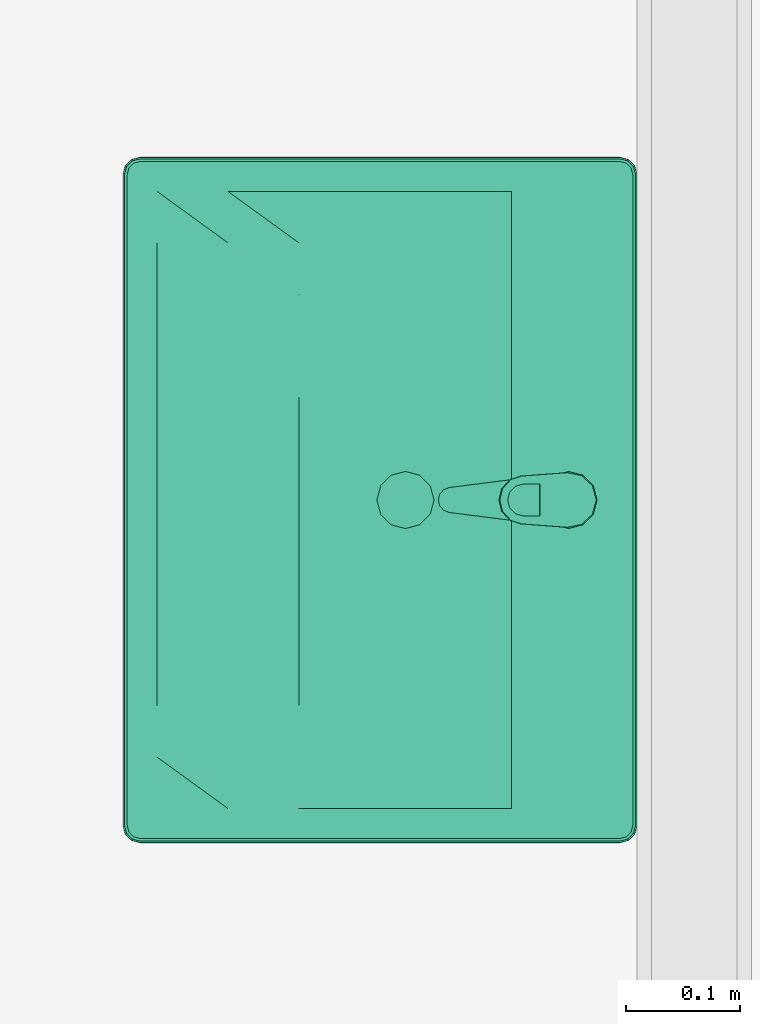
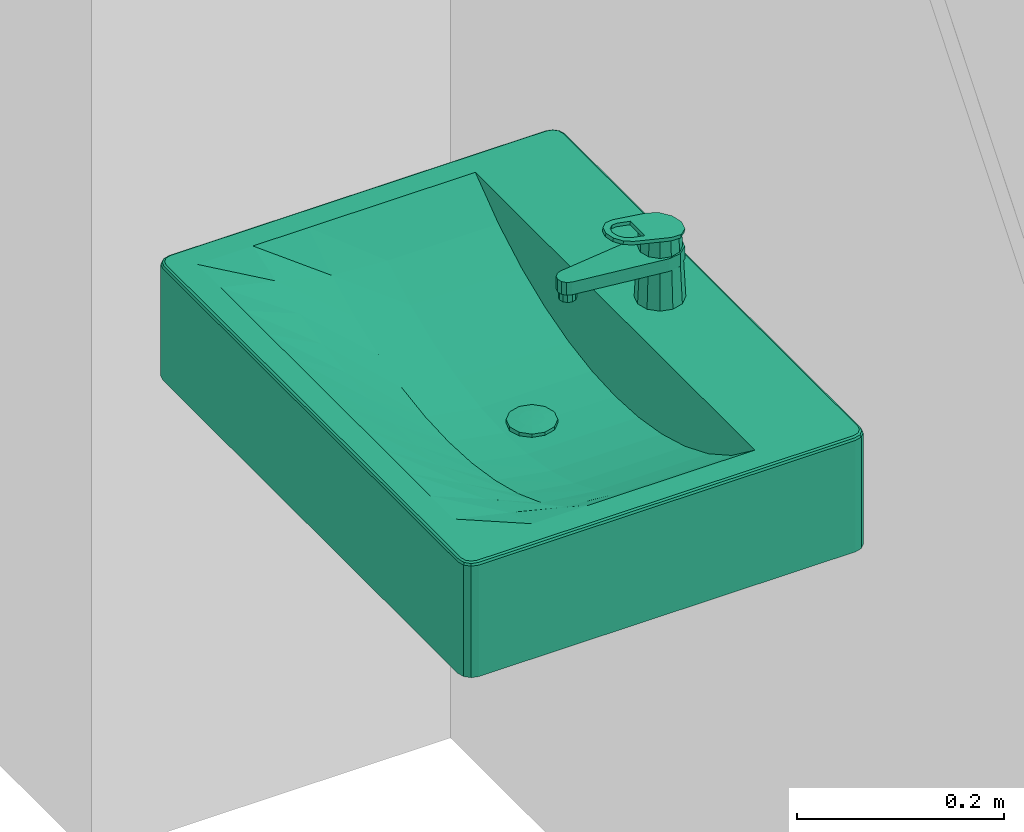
# One storey, part 82 of 99: 1 flow controller.
"""IFC2X3 building model written with IfcOpenShell, lengths in millimetres."""

from ifc_helpers import new_model, entity, si_unit, converted_unit, derived_unit, money_unit, direction, frame, origin_with_axes, place, context, subcontext, project, spatial, open_shell, faceted_brep, surface_model, source, transform, mapped, type_object, type_shapes, element, save


model = new_model("IFC2X3")

# Units and contexts
model_context = context("Model", 3, precision=0.01, world=origin_with_axes(), true_north=direction((0.0, 1.0)))
body_context = subcontext(model_context, "Body", "Model", "MODEL_VIEW")
ifc_project = project(units=[si_unit("LENGTHUNIT", "METRE", prefix="MILLI"), si_unit("AREAUNIT", "SQUARE_METRE"), si_unit("VOLUMEUNIT", "CUBIC_METRE"), converted_unit("PLANEANGLEUNIT", "DEGREE", entity("IfcPlaneAngleMeasure", 0.0174532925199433), si_unit("PLANEANGLEUNIT", "RADIAN"), dimensions=[0, 0, 0, 0, 0, 0, 0]), money_unit("EUR"), converted_unit("TIMEUNIT", "Year", entity("IfcTimeMeasure", 31557600.0), si_unit("TIMEUNIT", "SECOND"), dimensions=[0, 0, 1, 0, 0, 0, 0]), si_unit("MASSUNIT", "GRAM", prefix="KILO"), si_unit("THERMODYNAMICTEMPERATUREUNIT", "DEGREE_CELSIUS"), si_unit("LUMINOUSINTENSITYUNIT", "LUMEN"), si_unit("ENERGYUNIT", "JOULE", prefix="MEGA"), derived_unit("THERMALCONDUCTANCEUNIT", [(si_unit("POWERUNIT", "WATT"), 1), (si_unit("LENGTHUNIT", "METRE"), -1), (si_unit("THERMODYNAMICTEMPERATUREUNIT", "KELVIN"), -1)]), derived_unit("SPECIFICHEATCAPACITYUNIT", [(si_unit("ENERGYUNIT", "JOULE"), 1), (si_unit("MASSUNIT", "GRAM", prefix="KILO"), -1), (si_unit("THERMODYNAMICTEMPERATUREUNIT", "KELVIN"), -1)]), derived_unit("MASSDENSITYUNIT", [(si_unit("MASSUNIT", "GRAM", prefix="KILO"), 1), (si_unit("VOLUMEUNIT", "CUBIC_METRE"), -1)])], contexts=[model_context])

# Site, building, storey
site_placement = place(None, origin_with_axes())
site = spatial("IfcSite", under=ifc_project, at=site_placement, Name="Site", CompositionType="ELEMENT")
building_placement = place(site_placement, origin_with_axes())
building = spatial("IfcBuilding", under=site, at=building_placement, Name="Naam gebouw", CompositionType="ELEMENT")
storey_placement = place(building_placement, frame((0.0, 0.0, 7650.0), z_axis=(0.0, 0.0, 1.0), x_axis=(1.0, 0.0, 0.0)))
storey = spatial("IfcBuildingStorey", under=building, at=storey_placement, Name="2e verdieping N", CompositionType="ELEMENT", Elevation=7650.0)

# Flow controller
valve_type = type_object("IfcValveType", Name="Wasbak 27", PredefinedType="NOTDEFINED")
shared_shape = source(origin_with_axes(), body_context, "Body", "SurfaceModel", [
    faceted_brep([(285.0, -450.0, 865.0), (-285.0, -450.0, 865.0), (-292.5, -447.9903810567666, 865.0), (-297.9903810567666, -442.5, 865.0), (-300.0, -435.0, 865.0), (-300.0, -15.00000000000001, 865.0), (-297.9903810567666, -7.500000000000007, 865.0), (-292.5, -2.009618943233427, 865.0), (-285.0, 0.0, 865.0), (285.0, 0.0, 865.0), (292.5, -2.009618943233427, 865.0), (297.9903810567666, -7.500000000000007, 865.0), (300.0, -15.00000000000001, 865.0), (300.0, -435.0, 865.0), (297.9903810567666, -442.5, 865.0), (292.5, -447.9903810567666, 865.0), (-270.0, -420.0000000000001, 865.0), (270.0, -420.0000000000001, 865.0), (270.0, -110.0, 865.0), (-270.0, -110.0, 865.0), (284.9999995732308, -450.0000003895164, 995.0), (-284.9999997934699, -450.0000003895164, 995.0), (-292.5000000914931, -447.9903813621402, 995.0), (-297.9903813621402, -442.5000000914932, 995.0), (-300.0000003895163, -434.99999979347, 995.0), (-300.0000003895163, -14.99999986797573, 995.0), (-297.9903813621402, -7.499999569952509, 995.0), (-292.5000000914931, -2.009619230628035, 995.0), (-284.9999997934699, -2.032518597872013e-07, 995.0), (284.9999995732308, -2.032518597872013e-07, 995.0), (292.499999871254, -2.009619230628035, 995.0), (297.990381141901, -7.499999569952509, 995.0), (300.0000001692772, -14.99999986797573, 995.0), (300.0000001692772, -434.99999979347, 995.0), (297.990381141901, -442.5000000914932, 995.0), (292.499999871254, -447.9903813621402, 995.0), (-270.0, -420.0000000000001, 999.9999996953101), (270.0, -420.0000000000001, 999.9999996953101), (270.0, -110.0, 999.9999996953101), (-270.0, -110.0, 999.9999996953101), (284.9775698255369, -449.8296295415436, 996.2940952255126), (-284.9775700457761, -449.8296295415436, 996.2940952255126), (-292.4118096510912, -447.8376310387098, 996.2940952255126), (-297.8376310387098, -442.4118096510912, 996.2940952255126), (-299.8296295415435, -434.9775700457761, 996.2940952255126), (-299.8296295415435, -15.02242961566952, 996.2940952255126), (-297.8376310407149, -7.588190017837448, 996.2940952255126), (-292.4118096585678, -2.16236955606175, 996.2940952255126), (-284.9775700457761, -0.1703710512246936, 996.2940952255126), (284.9775698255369, -0.1703710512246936, 996.2940952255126), (292.4118094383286, -2.16236955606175, 996.2940952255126), (297.8376308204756, -7.588190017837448, 996.2940952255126), (299.8296293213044, -15.02242961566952, 996.2940952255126), (299.8296293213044, -434.9775700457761, 996.2940952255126), (297.8376308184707, -442.4118096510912, 996.2940952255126), (292.411809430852, -447.8376310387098, 996.2940952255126), (-284.3417376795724, -4.999997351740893, 999.9999996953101), (-289.911811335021, -6.492494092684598, 999.9999996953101), (-293.5075066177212, -10.08818876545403, 999.9999996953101), (-295.0000032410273, -15.6582619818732, 999.9999996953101), (-295.0000032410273, -434.3417376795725, 999.9999996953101), (-293.5075065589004, -439.9118111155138, 999.9999996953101), (-289.9118111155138, -443.5075065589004, 999.9999996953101), (-284.3417376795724, -445.0000032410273, 999.9999996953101), (284.3417374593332, -445.0000032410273, 999.9999996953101), (289.9118108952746, -443.5075065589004, 999.9999996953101), (293.5075063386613, -439.9118111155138, 999.9999996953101), (295.0000030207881, -434.3417376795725, 999.9999996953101), (295.0000030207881, -15.6582619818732, 999.9999996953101), (293.507506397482, -10.08818876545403, 999.9999996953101), (289.9118111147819, -6.492494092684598, 999.9999996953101), (284.3417374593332, -4.999997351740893, 999.9999996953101), (284.8071989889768, -448.5355345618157, 998.5355339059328), (-284.8071992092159, -448.5355345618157, 998.5355339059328), (-291.7419367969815, -446.6773772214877, 998.5355339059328), (-296.6773772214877, -441.7419367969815, 998.5355339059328), (-298.5355345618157, -434.807199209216, 998.5355339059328), (-298.5355345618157, -15.1928004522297, 998.5355339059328), (-296.6773772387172, -8.258062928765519, 998.5355339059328), (-291.7419368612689, -3.322623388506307, 998.5355339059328), (-284.8071992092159, -1.464466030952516, 998.5355339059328), (284.8071989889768, -1.464466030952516, 998.5355339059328), (291.7419366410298, -3.322623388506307, 998.5355339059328), (296.677377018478, -8.258062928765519, 998.5355339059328), (298.5355343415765, -15.1928004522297, 998.5355339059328), (298.5355343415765, -434.807199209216, 998.5355339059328), (296.6773770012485, -441.7419367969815, 998.5355339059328), (291.7419365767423, -446.6773772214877, 998.5355339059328), (-290.5816830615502, -5.332242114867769, 999.8296291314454), (-284.5121082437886, -3.705904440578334, 999.8296291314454), (-294.6677585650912, -9.418316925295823, 999.8296291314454), (-296.2940961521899, -15.487891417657, 999.8296291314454), (-296.2940961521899, -434.5121082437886, 999.8296291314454), (-294.6677585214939, -440.5816828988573, 999.8296291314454), (-290.5816828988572, -444.6677585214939, 999.8296291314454), (-284.5121082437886, -446.2940961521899, 999.8296291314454), (284.5121080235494, -446.2940961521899, 999.8296291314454), (290.5816826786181, -444.6677585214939, 999.8296291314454), (294.6677583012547, -440.5816828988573, 999.8296291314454), (296.2940959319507, -434.5121082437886, 999.8296291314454), (296.2940959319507, -15.487891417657, 999.8296291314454), (294.667758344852, -9.418316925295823, 999.8296291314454), (290.581682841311, -5.332242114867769, 999.8296291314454), (284.5121080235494, -3.705904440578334, 999.8296291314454)], [[[0, 1, 2, 3, 4, 5, 6, 7, 8, 9, 10, 11, 12, 13, 14, 15], [16, 17, 18, 19]], [[0, 20, 21, 1]], [[1, 21, 22, 2]], [[2, 22, 23, 3]], [[3, 23, 24, 4]], [[4, 24, 25, 5]], [[5, 25, 26, 6]], [[6, 26, 27, 7]], [[7, 27, 28, 8]], [[8, 28, 29, 9]], [[9, 29, 30, 10]], [[10, 30, 31, 11]], [[11, 31, 32, 12]], [[12, 32, 33, 13]], [[13, 33, 34, 14]], [[14, 34, 35, 15]], [[15, 35, 20, 0]], [[36, 37, 17, 16]], [[37, 38, 18, 17]], [[38, 39, 19, 18]], [[39, 36, 16, 19]], [[20, 40, 41, 21]], [[21, 41, 42, 22]], [[22, 42, 43, 23]], [[23, 43, 44, 24]], [[24, 44, 45, 25]], [[25, 45, 46, 26]], [[26, 46, 47, 27]], [[27, 47, 48, 28]], [[28, 48, 49, 29]], [[29, 49, 50, 30]], [[30, 50, 51, 31]], [[31, 51, 52, 32]], [[32, 52, 53, 33]], [[33, 53, 54, 34]], [[34, 54, 55, 35]], [[35, 55, 40, 20]], [[56, 57, 58, 59, 60, 61, 62, 63, 64, 65, 66, 67, 68, 69, 70, 71], [36, 39, 38, 37]], [[40, 72, 73, 41]], [[41, 73, 74, 42]], [[42, 74, 75, 43]], [[43, 75, 76, 44]], [[44, 76, 77, 45]], [[45, 77, 78, 46]], [[46, 78, 79, 47]], [[47, 79, 80, 48]], [[48, 80, 81, 49]], [[49, 81, 82, 50]], [[50, 82, 83, 51]], [[51, 83, 84, 52]], [[52, 84, 85, 53]], [[53, 85, 86, 54]], [[54, 86, 87, 55]], [[55, 87, 72, 40]], [[88, 57, 56, 89]], [[90, 58, 57, 88]], [[91, 59, 58, 90]], [[92, 60, 59, 91]], [[93, 61, 60, 92]], [[94, 62, 61, 93]], [[95, 63, 62, 94]], [[96, 64, 63, 95]], [[97, 65, 64, 96]], [[98, 66, 65, 97]], [[99, 67, 66, 98]], [[100, 68, 67, 99]], [[101, 69, 68, 100]], [[102, 70, 69, 101]], [[103, 71, 70, 102]], [[89, 56, 71, 103]], [[72, 96, 95, 73]], [[73, 95, 94, 74]], [[74, 94, 93, 75]], [[75, 93, 92, 76]], [[76, 92, 91, 77]], [[77, 91, 90, 78]], [[78, 90, 88, 79]], [[79, 88, 89, 80]], [[80, 89, 103, 81]], [[81, 103, 102, 82]], [[82, 102, 101, 83]], [[83, 101, 100, 84]], [[84, 100, 99, 85]], [[85, 99, 98, 86]], [[86, 98, 97, 87]], [[87, 97, 96, 72]]]),
    faceted_brep([(-270.0, -420.0000000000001, 865.0), (-270.0, -110.0, 865.0), (270.0, -110.0, 865.0), (270.0, -420.0000000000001, 865.0), (12.49999999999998, -224.368635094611, 865.0), (21.65063509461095, -215.218, 865.0), (25.0, -202.718, 865.0), (21.65063509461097, -190.218, 865.0), (12.50000000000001, -181.067364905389, 865.0), (0.0, -177.718, 865.0), (-12.49999999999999, -181.067364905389, 865.0), (-21.65063509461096, -190.218, 865.0), (-25.0, -202.718, 865.0), (-21.65063509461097, -215.218, 865.0), (-12.50000000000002, -224.368635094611, 865.0), (0.0, -227.718, 865.0), (-270.0, -296.0000000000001, 1000.0), (-270.0, -234.0, 1000.0), (-270.0, -172.0, 1000.0), (-270.0, -110.0, 1000.0), (-270.0, -420.0000000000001, 1000.0), (-270.0, -358.0000000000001, 1000.0), (135.0, -110.0, 922.6004593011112), (180.0000000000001, -110.0, 941.1231796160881), (225.0, -110.0, 966.3832810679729), (270.0, -110.0, 1000.0), (-225.0, -110.0, 966.3832810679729), (-180.0, -110.0, 941.1231796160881), (-135.0, -110.0, 922.6004593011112), (-90.0, -110.0, 909.8887668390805), (-44.99999999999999, -110.0, 902.449942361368), (0.0, -110.0, 900.0), (45.00000000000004, -110.0, 902.449942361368), (90.00000000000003, -110.0, 909.8887668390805), (270.0, -234.0, 1000.0), (270.0, -296.0000000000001, 999.9999999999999), (270.0, -358.0000000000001, 1000.0), (270.0, -420.0000000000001, 1000.0), (270.0, -172.0, 1000.0), (-135.0, -420.0000000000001, 1000.0), (-180.0, -420.0000000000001, 1000.0), (-225.0, -420.0000000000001, 1000.0), (225.0, -420.0000000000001, 1000.0), (180.0000000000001, -420.0000000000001, 1000.0), (135.0, -420.0000000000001, 1000.0), (90.00000000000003, -420.0000000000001, 1000.0), (45.00000000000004, -420.0000000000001, 1000.0), (0.0, -420.0000000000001, 1000.0), (-44.99999999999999, -420.0000000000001, 1000.0), (-90.0, -420.0000000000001, 1000.0), (12.49999999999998, -224.368635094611, 900.6805395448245), (21.65063509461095, -215.218, 901.1787290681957), (25.0, -202.718, 901.3610790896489), (21.65063509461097, -190.218, 901.1787290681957), (12.50000000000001, -181.067364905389, 900.6805395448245), (0.0, -177.718, 900.0), (-12.49999999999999, -181.067364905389, 900.6805395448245), (-21.65063509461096, -190.218, 901.1787290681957), (-25.0, -202.718, 901.3610790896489), (-21.65063509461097, -215.218, 901.1787290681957), (-12.50000000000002, -224.368635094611, 900.6805395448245), (0.0, -227.718, 900.0), (-225.0, -234.0, 966.3832810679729), (-225.0, -172.0, 966.3832810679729), (-225.0, -358.0000000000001, 985.9168845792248), (-225.0, -296.0000000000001, 970.8433791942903), (180.0000000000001, -172.0, 941.1231796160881), (135.0, -172.0, 922.6004593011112), (225.0, -172.0, 966.3832810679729), (-180.0, -172.0, 941.1231796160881), (-135.0, -172.0, 922.6004593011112), (-90.0, -172.0, 909.8887668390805), (-44.99999999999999, -172.0, 902.449942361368), (0.0, -172.0, 900.0), (45.00000000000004, -172.0, 902.449942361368), (90.00000000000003, -172.0, 909.8887668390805), (225.0, -296.0000000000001, 970.8433791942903), (225.0, -358.0000000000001, 985.9168845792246), (225.0, -234.0, 966.3832810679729), (-135.0, -358.0000000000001, 965.8650987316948), (-180.0, -358.0000000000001, 974.5766150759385), (180.0000000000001, -358.0000000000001, 974.5766150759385), (135.0, -358.0000000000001, 965.8650987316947), (90.00000000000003, -358.0000000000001, 959.6989661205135), (45.00000000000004, -358.0000000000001, 956.0213334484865), (0.0, -358.0000000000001, 954.7990813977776), (-44.99999999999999, -358.0000000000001, 956.0213334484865), (-90.0, -358.0000000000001, 959.6989661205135), (0.0, -234.0, 900.0), (45.00000000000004, -234.0, 902.449942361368), (-44.99999999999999, -234.0, 902.449942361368), (-180.0, -234.0, 941.1231796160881), (180.0000000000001, -234.0, 941.1231796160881), (135.0, -234.0, 922.6004593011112), (-135.0, -234.0, 922.6004593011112), (-90.0, -234.0, 909.8887668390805), (90.00000000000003, -234.0, 909.8887668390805), (0.0, -296.0000000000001, 911.4604006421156), (-44.99999999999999, -296.0000000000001, 913.6864730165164), (-180.0, -296.0000000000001, 948.4946543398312), (135.0, -296.0000000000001, 931.904485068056), (180.0000000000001, -296.0000000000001, 948.4946543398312), (-135.0, -296.0000000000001, 931.904485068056), (-90.0, -296.0000000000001, 920.4312036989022), (45.00000000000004, -296.0000000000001, 913.6864730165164), (90.00000000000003, -296.0000000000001, 920.4312036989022)], [[[0, 1, 2, 3], [4, 5, 6, 7, 8, 9, 10, 11, 12, 13, 14, 15]], [[16, 17, 18, 19, 1, 0, 20, 21]], [[22, 23, 24, 25, 2, 1, 19, 26, 27, 28, 29, 30, 31, 32, 33]], [[34, 35, 36, 37, 3, 2, 25, 38]], [[39, 40, 41, 20, 0, 3, 37, 42, 43, 44, 45, 46, 47, 48, 49]], [[50, 51, 5, 4]], [[51, 52, 6, 5]], [[52, 53, 7, 6]], [[53, 54, 8, 7]], [[54, 55, 9, 8]], [[55, 56, 10, 9]], [[56, 57, 11, 10]], [[57, 58, 12, 11]], [[58, 59, 13, 12]], [[59, 60, 14, 13]], [[60, 61, 15, 14]], [[61, 50, 4, 15]], [[16, 62, 17]], [[62, 63, 18, 17]], [[63, 26, 19, 18]], [[20, 64, 21]], [[21, 65, 16]], [[66, 23, 22, 67]], [[68, 24, 23, 66]], [[38, 25, 24, 68]], [[69, 27, 26, 63]], [[70, 28, 27, 69]], [[71, 29, 28, 70]], [[72, 30, 29, 71]], [[73, 31, 30, 72]], [[74, 32, 31, 73]], [[75, 33, 32, 74]], [[67, 22, 33, 75]], [[76, 35, 34]], [[77, 36, 35]], [[42, 37, 36]], [[34, 38, 68, 78]], [[40, 39, 79]], [[41, 40, 80]], [[20, 41, 64]], [[43, 42, 77]], [[44, 43, 81]], [[45, 44, 82]], [[46, 45, 83]], [[47, 46, 84]], [[48, 47, 85]], [[49, 48, 86]], [[39, 49, 87]], [[54, 53, 52, 51, 50, 61, 88, 89, 74, 73, 55]], [[56, 55, 73, 72, 90, 88, 61, 60, 59, 58, 57]], [[16, 65, 62]], [[91, 69, 63, 62]], [[21, 64, 65]], [[92, 66, 67, 93]], [[78, 68, 66, 92]], [[94, 70, 69, 91]], [[95, 71, 70, 94]], [[90, 72, 71, 95]], [[96, 75, 74, 89]], [[93, 67, 75, 96]], [[77, 35, 76]], [[76, 34, 78]], [[42, 36, 77]], [[39, 87, 79]], [[40, 79, 80]], [[41, 80, 64]], [[43, 77, 81]], [[44, 81, 82]], [[45, 82, 83]], [[46, 83, 84]], [[47, 84, 85]], [[48, 85, 86]], [[49, 86, 87]], [[97, 89, 88]], [[98, 88, 90]], [[65, 91, 62]], [[64, 99, 65]], [[100, 92, 93]], [[101, 78, 92]], [[99, 94, 91]], [[102, 95, 94]], [[103, 90, 95]], [[104, 96, 89]], [[105, 93, 96]], [[81, 77, 76]], [[101, 76, 78]], [[79, 87, 103]], [[80, 79, 102]], [[64, 80, 99]], [[82, 81, 101]], [[83, 82, 100]], [[84, 83, 105]], [[85, 84, 104]], [[86, 85, 97]], [[87, 86, 98]], [[97, 104, 89]], [[98, 97, 88]], [[103, 98, 90]], [[65, 99, 91]], [[100, 101, 92]], [[105, 100, 93]], [[99, 102, 94]], [[102, 103, 95]], [[104, 105, 96]], [[81, 76, 101]], [[87, 98, 103]], [[79, 103, 102]], [[80, 102, 99]], [[82, 101, 100]], [[83, 100, 105]], [[84, 105, 104]], [[85, 104, 97]], [[86, 97, 98]]]),
    faceted_brep([(21.65063509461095, -215.218, 900.0), (12.49999999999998, -224.368635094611, 900.0), (0.0, -227.718, 900.0), (-12.50000000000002, -224.368635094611, 900.0), (-21.65063509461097, -215.218, 900.0), (-25.0, -202.718, 900.0), (-21.65063509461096, -190.218, 900.0), (-12.49999999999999, -181.067364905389, 900.0), (0.0, -177.718, 900.0), (12.50000000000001, -181.067364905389, 900.0), (21.65063509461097, -190.218, 900.0), (25.0, -202.718, 900.0), (21.65063509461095, -215.218, 905.0), (12.49999999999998, -224.368635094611, 905.0), (0.0, -227.718, 905.0), (-12.50000000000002, -224.368635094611, 905.0), (-21.65063509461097, -215.218, 905.0), (-25.0, -202.718, 905.0), (-21.65063509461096, -190.218, 905.0), (-12.49999999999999, -181.067364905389, 905.0), (0.0, -177.718, 905.0), (12.50000000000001, -181.067364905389, 905.0), (21.65063509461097, -190.218, 905.0), (25.0, -202.718, 905.0)], [[[0, 1, 2, 3, 4, 5, 6, 7, 8, 9, 10, 11]], [[1, 0, 12, 13]], [[2, 1, 13, 14]], [[3, 2, 14, 15]], [[4, 3, 15, 16]], [[5, 4, 16, 17]], [[6, 5, 17, 18]], [[7, 6, 18, 19]], [[8, 7, 19, 20]], [[9, 8, 20, 21]], [[10, 9, 21, 22]], [[11, 10, 22, 23]], [[0, 11, 23, 12]], [[12, 23, 22, 21, 20, 19, 18, 17, 16, 15, 14, 13]]]),
    surface_model("IfcShellBasedSurfaceModel", [(0.0, -202.718, 907.0), (0.0, -190.09609443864, 906.4975737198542), (-6.310952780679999, -191.7871091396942, 906.4975737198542), (6.310952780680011, -191.7871091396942, 906.4975737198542), (0.0, -177.718, 905.0), (-12.5, -181.067364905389, 905.0), (-10.93089086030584, -196.40704721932, 906.4975737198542), (10.93089086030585, -196.40704721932, 906.4975737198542), (12.50000000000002, -181.067364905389, 905.0), (-21.65063509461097, -190.218, 905.0), (-12.62190556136, -202.718, 906.4975737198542), (12.62190556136, -202.718, 906.4975737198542), (21.65063509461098, -190.218, 905.0), (-25.0, -202.718, 905.0), (-10.93089086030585, -209.02895278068, 906.4975737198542), (10.93089086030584, -209.02895278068, 906.4975737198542), (25.0, -202.718, 905.0), (-21.65063509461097, -215.218, 905.0), (-6.310952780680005, -213.6488908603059, 906.4975737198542), (6.310952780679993, -213.6488908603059, 906.4975737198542), (21.65063509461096, -215.218, 905.0), (-12.50000000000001, -224.368635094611, 905.0), (0.0, -215.33990556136, 906.4975737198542), (12.49999999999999, -224.368635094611, 905.0), (0.0, -227.718, 905.0)], [open_shell([[[0, 1, 2]], [[0, 3, 1]], [[2, 1, 4, 5]], [[0, 2, 6]], [[0, 7, 3]], [[1, 3, 8, 4]], [[6, 2, 5, 9]], [[0, 6, 10]], [[0, 11, 7]], [[3, 7, 12, 8]], [[10, 6, 9, 13]], [[0, 10, 14]], [[0, 15, 11]], [[7, 11, 16, 12]], [[14, 10, 13, 17]], [[0, 14, 18]], [[0, 19, 15]], [[11, 15, 20, 16]], [[18, 14, 17, 21]], [[0, 18, 22]], [[0, 22, 19]], [[15, 19, 23, 20]], [[22, 18, 21, 24]], [[19, 22, 24, 23]]])]),
    faceted_brep([(12.50000000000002, -38.34936490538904, 1000.0), (0.0, -34.99999999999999, 1000.0), (0.0, -38.79807692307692, 1075.961538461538), (10.587322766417, -41.66221905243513, 1076.507089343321), (21.65063509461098, -47.50000000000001, 1000.0), (25.0, -60.00000000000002, 1000.0), (21.65063509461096, -72.50000000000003, 1000.0), (12.49999999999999, -81.65063509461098, 1000.0), (0.0, -84.99999999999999, 1000.0), (-12.50000000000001, -81.65063509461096, 1000.0), (-21.65063509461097, -72.5, 1000.0), (-25.0, -59.99999999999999, 1000.0), (-21.65063509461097, -47.49999999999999, 1000.0), (-12.5, -38.34936490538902, 1000.0), (-10.58732276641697, -41.66221905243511, 1076.507089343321), (-18.27355038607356, -49.44976076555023, 1077.99043062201), (-21.0, -59.99999999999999, 1080.0), (-18.10034137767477, -70.45023696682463, 1081.990521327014), (-10.41410590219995, -78.0377605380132, 1083.435763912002), (0.0, -80.80188679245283, 1083.962264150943), (10.41410590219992, -78.03776053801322, 1083.435763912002), (18.10034137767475, -70.45023696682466, 1081.990521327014), (21.0, -60.00000000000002, 1080.0), (18.27355038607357, -49.44976076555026, 1077.99043062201)], [[[0, 1, 2, 3]], [[0, 4, 5, 6, 7, 8, 9, 10, 11, 12, 13, 1]], [[1, 13, 14, 2]], [[3, 2, 14, 15, 16, 17, 18, 19, 20, 21, 22, 23]], [[4, 0, 3, 23]], [[5, 4, 23, 22]], [[6, 5, 22, 21]], [[7, 6, 21, 20]], [[8, 7, 20, 19]], [[9, 8, 19, 18]], [[10, 9, 18, 17]], [[11, 10, 17, 16]], [[12, 11, 16, 15]], [[13, 12, 15, 14]]]),
    faceted_brep([(9.000000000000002, -163.0, 1035.0), (7.794228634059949, -158.5, 1035.0), (7.794228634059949, -158.5, 1045.0), (9.000000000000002, -163.0, 1045.0), (7.794228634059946, -167.5, 1035.0), (4.499999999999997, -170.79422863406, 1035.0), (0.0, -172.0, 1035.0), (-4.500000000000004, -170.79422863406, 1035.0), (-7.794228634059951, -167.5, 1035.0), (-9.000000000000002, -163.0, 1035.0), (-7.794228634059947, -158.5, 1035.0), (-4.499999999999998, -155.2057713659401, 1035.0), (0.0, -154.0, 1035.0), (4.500000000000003, -155.2057713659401, 1035.0), (4.500000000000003, -155.2057713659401, 1045.0), (0.0, -154.0, 1045.0), (-4.499999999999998, -155.2057713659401, 1045.0), (-7.794228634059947, -158.5, 1045.0), (-9.000000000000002, -163.0, 1045.0), (-7.794228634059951, -167.5, 1045.0), (-4.500000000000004, -170.79422863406, 1045.0), (0.0, -172.0, 1045.0), (4.499999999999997, -170.79422863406, 1045.0), (7.794228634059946, -167.5, 1045.0)], [[[0, 1, 2, 3]], [[0, 4, 5, 6, 7, 8, 9, 10, 11, 12, 13, 1]], [[1, 13, 14, 2]], [[3, 2, 14, 15, 16, 17, 18, 19, 20, 21, 22, 23]], [[4, 0, 3, 23]], [[5, 4, 23, 22]], [[6, 5, 22, 21]], [[7, 6, 21, 20]], [[8, 7, 20, 19]], [[9, 8, 19, 18]], [[10, 9, 18, 17]], [[11, 10, 17, 16]], [[12, 11, 16, 15]], [[13, 12, 15, 14]]]),
    faceted_brep([(-12.87171762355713, -39.74369617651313, 1060.0), (-21.72780530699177, -49.80679463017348, 1060.0), (-23.8054, -63.04989999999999, 1060.0), (-10.9119908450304, -164.3883719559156, 1060.0), (-9.02887546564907, -169.2831941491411, 1060.0), (-5.093324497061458, -172.7497264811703, 1060.0), (3.626798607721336e-05, -173.9999600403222, 1060.0), (5.093388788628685, -172.7496928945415, 1060.0), (9.02891689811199, -169.2831346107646, 1060.0), (10.912, -164.3883, 1060.0), (23.80539974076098, -63.04990202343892, 1060.0), (21.72780617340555, -49.80679647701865, 1060.0), (12.87171934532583, -39.74369727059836, 1060.0), (1.019988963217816e-06, -36.00002168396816, 1060.0), (11.00000000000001, -40.94744111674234, 1060.0), (19.05255888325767, -48.99999999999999, 1060.0), (22.00000000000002, -60.0, 1060.0), (19.05255888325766, -71.00000000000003, 1060.0), (10.99999999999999, -79.05255888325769, 1060.0), (0.0, -82.0, 1060.0), (-11.00000000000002, -79.05255888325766, 1060.0), (-19.05255888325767, -70.99999999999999, 1060.0), (-22.00000000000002, -59.99999999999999, 1060.0), (-19.05255888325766, -48.99999999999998, 1060.0), (-11.0, -40.94744111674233, 1060.0), (0.0, -37.99999999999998, 1060.0), (-21.72780530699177, -49.80679463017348, 1045.0), (-12.87171762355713, -39.74369617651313, 1045.0), (-23.8054, -63.04989999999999, 1045.0), (-10.9119908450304, -164.3883719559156, 1045.0), (-9.02887546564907, -169.2831941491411, 1045.0), (-5.093324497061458, -172.7497264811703, 1045.0), (3.626798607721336e-05, -173.9999600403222, 1045.0), (5.093388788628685, -172.7496928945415, 1045.0), (9.02891689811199, -169.2831346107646, 1045.0), (10.912, -164.3883, 1045.0), (23.80539974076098, -63.04990202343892, 1045.0), (21.72780617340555, -49.80679647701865, 1045.0), (12.87171934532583, -39.74369727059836, 1045.0), (1.019988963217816e-06, -36.00002168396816, 1045.0), (11.37500000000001, -40.297922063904, 1045.0), (19.70207793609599, -48.62499999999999, 1045.0), (22.75000000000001, -60.0, 1045.0), (19.70207793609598, -71.37500000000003, 1045.0), (11.37499999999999, -79.702077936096, 1045.0), (0.0, -82.75, 1045.0), (-11.37500000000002, -79.70207793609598, 1045.0), (-19.70207793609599, -71.375, 1045.0), (-22.75000000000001, -59.99999999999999, 1045.0), (-19.70207793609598, -48.62499999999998, 1045.0), (-11.375, -40.297922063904, 1045.0), (0.0, -37.24999999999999, 1045.0)], [[[0, 1, 2, 3, 4, 5, 6, 7, 8, 9, 10, 11, 12, 13], [14, 15, 16, 17, 18, 19, 20, 21, 22, 23, 24, 25]], [[26, 1, 0, 27]], [[28, 2, 1, 26]], [[29, 3, 2, 28]], [[30, 4, 3, 29]], [[31, 5, 4, 30]], [[32, 6, 5, 31]], [[33, 7, 6, 32]], [[34, 8, 7, 33]], [[35, 9, 8, 34]], [[36, 10, 9, 35]], [[37, 11, 10, 36]], [[38, 12, 11, 37]], [[39, 13, 12, 38]], [[27, 0, 13, 39]], [[40, 41, 15, 14]], [[41, 42, 16, 15]], [[42, 43, 17, 16]], [[43, 44, 18, 17]], [[44, 45, 19, 18]], [[20, 19, 45, 46]], [[21, 20, 46, 47]], [[22, 21, 47, 48]], [[23, 22, 48, 49]], [[24, 23, 49, 50]], [[50, 51, 25, 24]], [[51, 40, 14, 25]], [[32, 31, 30, 29, 28, 26, 27, 39, 38, 37, 36, 35, 34, 33], [44, 43, 42, 41, 40, 51, 50, 49, 48, 47, 46, 45]]]),
    faceted_brep([(23.893, -61.69256934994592, 1080.322394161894), (21.29642141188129, -49.22528119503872, 1077.947672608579), (21.29642141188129, -48.47683276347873, 1081.877026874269), (23.893, -60.94412091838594, 1084.251748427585), (20.94593649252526, -101.8367022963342, 1087.968895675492), (17.66313911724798, -111.514366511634, 1089.81226028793), (10.06143529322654, -118.4637460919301, 1091.135951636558), (-0.0004426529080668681, -120.9856119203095, 1091.61630703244), (-10.06221236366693, -118.4633294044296, 1091.13587226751), (-17.66361794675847, -111.5136350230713, 1089.812120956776), (-20.946, -101.8358348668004, 1087.968730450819), (-23.89302047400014, -61.69229042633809, 1080.322341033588), (-21.29629106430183, -49.22503258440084, 1077.947625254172), (-12.4716815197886, -39.90880255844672, 1076.173105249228), (0.0001423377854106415, -36.46803549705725, 1075.517721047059), (12.47192457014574, -39.90894815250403, 1076.173132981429), (14.0, -85.54080272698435, 1084.86491480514), (-14.0, -85.54080272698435, 1084.86491480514), (-14.0, -100.3564329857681, 1087.686939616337), (-12.12435565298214, -107.2328029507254, 1088.996724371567), (-7.000000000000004, -112.2666551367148, 1089.955553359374), (0.0, -114.1091729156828, 1090.306509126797), (6.999999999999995, -112.2666551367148, 1089.955553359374), (12.12435565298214, -107.2328029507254, 1088.996724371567), (14.0, -100.3564329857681, 1087.686939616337), (12.47192457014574, -39.16049972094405, 1080.102487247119), (0.0001423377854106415, -35.71958706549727, 1079.447075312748), (-12.4716815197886, -39.16035412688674, 1080.102459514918), (-21.29629106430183, -48.47658415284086, 1081.876979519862), (-23.89302047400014, -60.9438419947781, 1084.251695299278), (-20.946, -101.0873864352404, 1091.898084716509), (-17.66361794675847, -110.7651865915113, 1093.741475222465), (-10.06221236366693, -117.7148809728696, 1095.0652265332), (-0.0004426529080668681, -120.2371634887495, 1095.54566129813), (10.06143529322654, -117.7152976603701, 1095.065305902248), (17.66313911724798, -110.765918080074, 1093.74161455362), (20.94593649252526, -101.0882538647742, 1091.898249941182), (14.0, -84.79235429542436, 1088.79426907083), (14.0, -99.60798455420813, 1091.616293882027), (12.12435565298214, -106.4843545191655, 1092.926078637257), (6.999999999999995, -111.5182067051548, 1093.884907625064), (0.0, -113.3607244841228, 1094.235863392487), (-7.000000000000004, -111.5182067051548, 1093.884907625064), (-12.12435565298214, -106.4843545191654, 1092.926078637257), (-14.0, -99.60798455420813, 1091.616293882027), (-14.0, -84.79235429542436, 1088.79426907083)], [[[0, 1, 2, 3]], [[0, 4, 5, 6, 7, 8, 9, 10, 11, 12, 13, 14, 15, 1], [16, 17, 18, 19, 20, 21, 22, 23, 24]], [[1, 15, 25, 2]], [[3, 2, 25, 26, 27, 28, 29, 30, 31, 32, 33, 34, 35, 36], [37, 38, 39, 40, 41, 42, 43, 44, 45]], [[4, 0, 3, 36]], [[5, 4, 36, 35]], [[6, 5, 35, 34]], [[7, 6, 34, 33]], [[8, 7, 33, 32]], [[9, 8, 32, 31]], [[10, 9, 31, 30]], [[11, 10, 30, 29]], [[12, 11, 29, 28]], [[13, 12, 28, 27]], [[14, 13, 27, 26]], [[15, 14, 26, 25]], [[17, 16, 37, 45]], [[18, 17, 45, 44]], [[19, 18, 44, 43]], [[20, 19, 43, 42]], [[21, 20, 42, 41]], [[22, 21, 41, 40]], [[23, 22, 40, 39]], [[24, 23, 39, 38]], [[16, 24, 38, 37]]]),
])
type_shapes(valve_type, [shared_shape])
flow_controller_placement = place(storey_placement, frame((28950.0, 14744.84505821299, -150.0000000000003), z_axis=(0.0, 0.0, 1.0), x_axis=(0.0, -1.0, 0.0)))
element("IfcFlowController", 1, at=flow_controller_placement, inside=storey, type_object=valve_type, Name="_Sanitair-x", ObjectType="Electric Distribution Board", context=body_context, shape_type="MappedRepresentation", body=[
    mapped(shared_shape, transform((0.0, 0.0, 0.0))),
])

save(model, "model.ifc")
